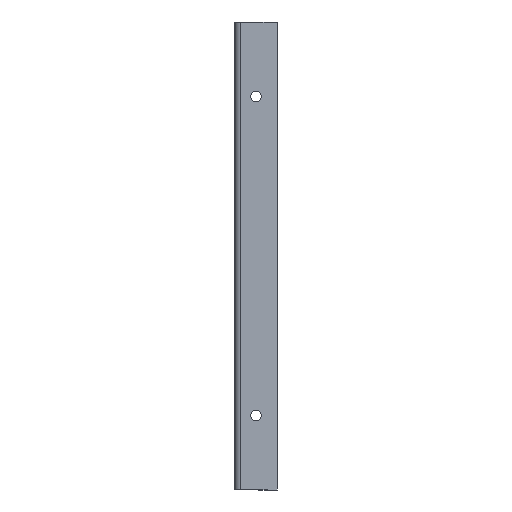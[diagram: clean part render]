
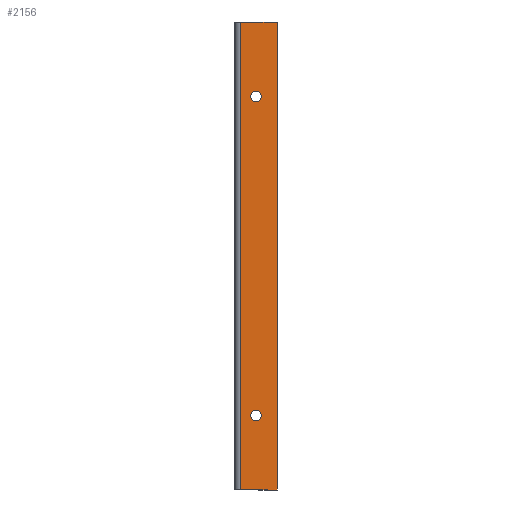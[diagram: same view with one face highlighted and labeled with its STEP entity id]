
A CAD part, front view. The second image highlights one B-rep face of the part: STEP entity #2156.
In plain terms, the highlighted planar face has unit normal (0, -1, 0).
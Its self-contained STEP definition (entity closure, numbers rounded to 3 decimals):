
#26 = AXIS2_PLACEMENT_3D ( 'NONE', #1443, #2034, #61 ) ;
#61 = DIRECTION ( 'NONE',  ( 0., 0., -1. ) ) ;
#73 = CARTESIAN_POINT ( 'NONE',  ( 102.736, -2., 100. ) ) ;
#93 = VERTEX_POINT ( 'NONE', #2137 ) ;
#101 = VERTEX_POINT ( 'NONE', #2326 ) ;
#117 = CARTESIAN_POINT ( 'NONE',  ( 120., -2., 100. ) ) ;
#164 = VECTOR ( 'NONE', #1077, 1000. ) ;
#187 = ORIENTED_EDGE ( 'NONE', *, *, #1112, .F. ) ;
#211 = DIRECTION ( 'NONE',  ( 0., 0., -1. ) ) ;
#264 = DIRECTION ( 'NONE',  ( 0., -1., 0. ) ) ;
#270 = ORIENTED_EDGE ( 'NONE', *, *, #1024, .F. ) ;
#302 = LINE ( 'NONE', #73, #1546 ) ;
#366 = VERTEX_POINT ( 'NONE', #404 ) ;
#404 = CARTESIAN_POINT ( 'NONE',  ( 120., -2., 100. ) ) ;
#436 = CARTESIAN_POINT ( 'NONE',  ( 120., -2., -120. ) ) ;
#529 = LINE ( 'NONE', #1608, #2335 ) ;
#542 = ORIENTED_EDGE ( 'NONE', *, *, #2207, .F. ) ;
#591 = DIRECTION ( 'NONE',  ( -1., 0., 0. ) ) ;
#620 = AXIS2_PLACEMENT_3D ( 'NONE', #2202, #1208, #591 ) ;
#695 = AXIS2_PLACEMENT_3D ( 'NONE', #2257, #1056, #211 ) ;
#705 = CARTESIAN_POINT ( 'NONE',  ( 110., -2., -85. ) ) ;
#743 = VECTOR ( 'NONE', #945, 1000. ) ;
#772 = CIRCLE ( 'NONE', #1543, 2.5 ) ;
#784 = VERTEX_POINT ( 'NONE', #1587 ) ;
#812 = CIRCLE ( 'NONE', #2337, 2.5 ) ;
#894 = CARTESIAN_POINT ( 'NONE',  ( 102.736, -2., 100. ) ) ;
#899 = ORIENTED_EDGE ( 'NONE', *, *, #1149, .T. ) ;
#907 = DIRECTION ( 'NONE',  ( 0., 0., -1. ) ) ;
#910 = EDGE_CURVE ( 'NONE', #1739, #784, #529, .T. ) ;
#945 = DIRECTION ( 'NONE',  ( 1., 0., 0. ) ) ;
#1024 = EDGE_CURVE ( 'NONE', #1116, #2374, #1746, .T. ) ;
#1037 = DIRECTION ( 'NONE',  ( 0., 0., -1. ) ) ;
#1056 = DIRECTION ( 'NONE',  ( 0., -1., 0. ) ) ;
#1064 = EDGE_LOOP ( 'NONE', ( #2170, #899, #2050, #187 ) ) ;
#1074 = ORIENTED_EDGE ( 'NONE', *, *, #1844, .F. ) ;
#1077 = DIRECTION ( 'NONE',  ( 0., 0., -1. ) ) ;
#1112 = EDGE_CURVE ( 'NONE', #366, #1739, #2038, .T. ) ;
#1116 = VERTEX_POINT ( 'NONE', #1481 ) ;
#1129 = LINE ( 'NONE', #117, #743 ) ;
#1149 = EDGE_CURVE ( 'NONE', #1831, #784, #302, .T. ) ;
#1208 = DIRECTION ( 'NONE',  ( 0., -1., 0. ) ) ;
#1309 = CARTESIAN_POINT ( 'NONE',  ( 110., -2., 67.5 ) ) ;
#1377 = FACE_OUTER_BOUND ( 'NONE', #1064, .T. ) ;
#1439 = FACE_BOUND ( 'NONE', #2546, .T. ) ;
#1443 = CARTESIAN_POINT ( 'NONE',  ( 110., -2., -85. ) ) ;
#1481 = CARTESIAN_POINT ( 'NONE',  ( 110., -2., 62.5 ) ) ;
#1490 = DIRECTION ( 'NONE',  ( 0., -1., 0. ) ) ;
#1543 = AXIS2_PLACEMENT_3D ( 'NONE', #2241, #264, #1037 ) ;
#1546 = VECTOR ( 'NONE', #2118, 1000. ) ;
#1587 = CARTESIAN_POINT ( 'NONE',  ( 102.736, -2., -120. ) ) ;
#1608 = CARTESIAN_POINT ( 'NONE',  ( 120., -2., -120. ) ) ;
#1617 = PLANE ( 'NONE',  #620 ) ;
#1739 = VERTEX_POINT ( 'NONE', #436 ) ;
#1746 = CIRCLE ( 'NONE', #695, 2.5 ) ;
#1769 = EDGE_LOOP ( 'NONE', ( #542, #1074 ) ) ;
#1831 = VERTEX_POINT ( 'NONE', #894 ) ;
#1844 = EDGE_CURVE ( 'NONE', #101, #93, #812, .T. ) ;
#1943 = FACE_BOUND ( 'NONE', #1769, .T. ) ;
#1956 = EDGE_CURVE ( 'NONE', #1831, #366, #1129, .T. ) ;
#2034 = DIRECTION ( 'NONE',  ( 0., -1., 0. ) ) ;
#2038 = LINE ( 'NONE', #2052, #164 ) ;
#2050 = ORIENTED_EDGE ( 'NONE', *, *, #910, .F. ) ;
#2052 = CARTESIAN_POINT ( 'NONE',  ( 120., -2., 100. ) ) ;
#2096 = CIRCLE ( 'NONE', #26, 2.5 ) ;
#2118 = DIRECTION ( 'NONE',  ( 0., 0., -1. ) ) ;
#2137 = CARTESIAN_POINT ( 'NONE',  ( 110., -2., -82.5 ) ) ;
#2156 = ADVANCED_FACE ( 'NONE', ( #1943, #1439, #1377 ), #1617, .T. ) ;
#2170 = ORIENTED_EDGE ( 'NONE', *, *, #1956, .F. ) ;
#2174 = EDGE_CURVE ( 'NONE', #2374, #1116, #772, .T. ) ;
#2202 = CARTESIAN_POINT ( 'NONE',  ( 120., -2., 100. ) ) ;
#2207 = EDGE_CURVE ( 'NONE', #93, #101, #2096, .T. ) ;
#2241 = CARTESIAN_POINT ( 'NONE',  ( 110., -2., 65. ) ) ;
#2257 = CARTESIAN_POINT ( 'NONE',  ( 110., -2., 65. ) ) ;
#2326 = CARTESIAN_POINT ( 'NONE',  ( 110., -2., -87.5 ) ) ;
#2335 = VECTOR ( 'NONE', #2432, 1000. ) ;
#2337 = AXIS2_PLACEMENT_3D ( 'NONE', #705, #1490, #907 ) ;
#2374 = VERTEX_POINT ( 'NONE', #1309 ) ;
#2432 = DIRECTION ( 'NONE',  ( -1., 0., 0. ) ) ;
#2546 = EDGE_LOOP ( 'NONE', ( #2606, #270 ) ) ;
#2606 = ORIENTED_EDGE ( 'NONE', *, *, #2174, .F. ) ;
